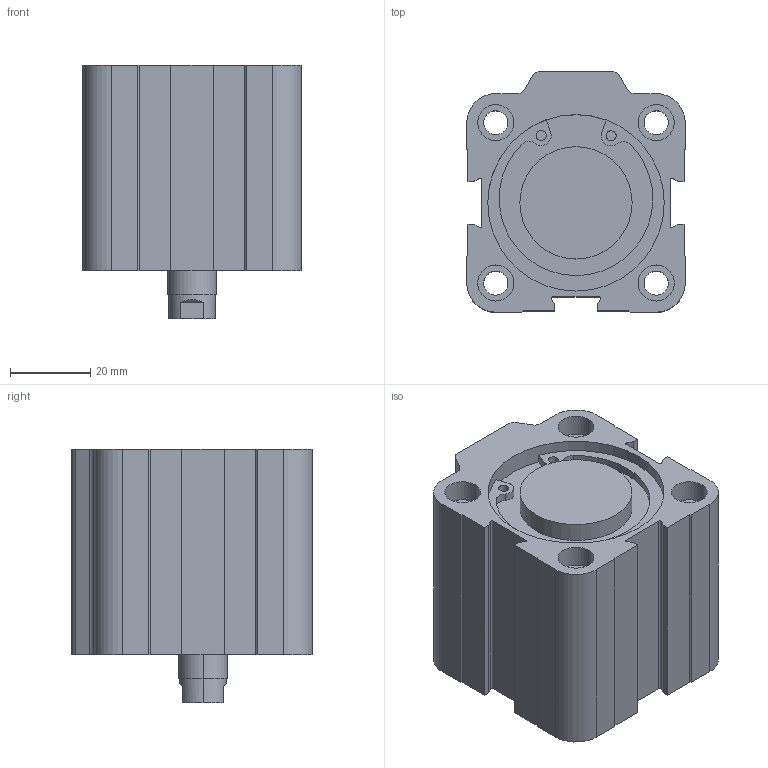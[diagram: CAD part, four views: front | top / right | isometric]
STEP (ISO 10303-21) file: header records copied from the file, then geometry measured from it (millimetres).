
FILE_DESCRIPTION((''),'2;1');
FILE_NAME('D11M30400005.stp','2010-02-13T13:55:12',('B. Petkovic 2010'),('AZ PNEUMATICA S.r.l.'),'Mechanical Desktop 2006','Mechanical Desktop 2006','Via Marco Biagi 6, I-20020 Misinto(MI) Italy, azpneu@tin.it');
FILE_SCHEMA(('CONFIG_CONTROL_DESIGN'));
Length unit declared in the file: millimetre
Products named in the file (2): D11M30400005; CORSA BREVE
Assembly tree (1 placements, depth 2):
  D11M30400005
    CORSA BREVE
Bounding box: 54.5 x 60 x 63.2 mm (x, y, z)
Volume: 134568.6 mm3; surface area: 25566.3 mm2
Topology: 1 solids, 1 shells, 180 faces, 446 edges, 292 vertices
Faces by surface type: cylinder 106, plane 74
Entity records: 5531 total; most frequent: DIRECTION 1014, CARTESIAN_POINT 920, ORIENTED_EDGE 892, EDGE_CURVE 446, AXIS2_PLACEMENT_3D 386, VERTEX_POINT 292, VECTOR 242, LINE 242
